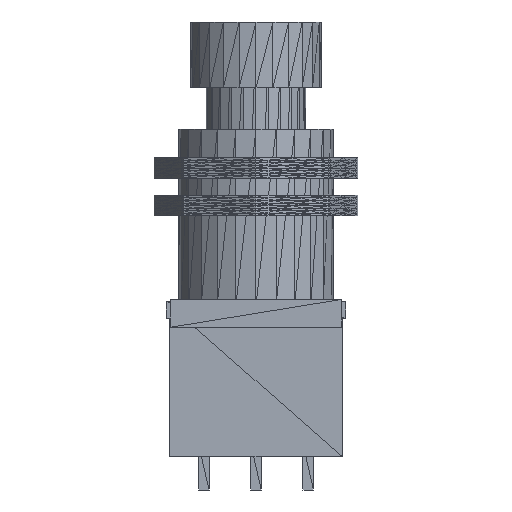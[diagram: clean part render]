
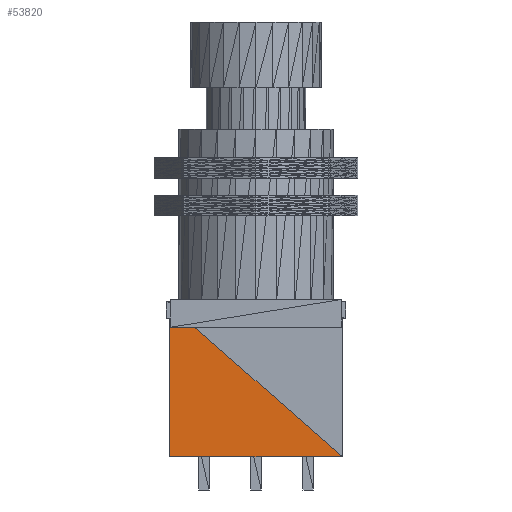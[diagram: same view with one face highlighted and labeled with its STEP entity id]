
A CAD part, front view. The second image highlights one B-rep face of the part: STEP entity #53820.
In plain terms, the highlighted planar face has unit normal (0, -1, 0).
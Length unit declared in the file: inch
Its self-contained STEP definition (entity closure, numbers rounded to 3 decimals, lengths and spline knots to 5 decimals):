
#53686=CARTESIAN_POINT('',(-0.264,-0.236,0.465));
#53687=VERTEX_POINT('',#53686);
#53718=CARTESIAN_POINT('',(-0.264,-0.236,0.));
#53719=VERTEX_POINT('',#53718);
#53726=CARTESIAN_POINT('',(-0.264,-0.236,0.));
#53727=DIRECTION('',(0.,0.,1.));
#53728=VECTOR('',#53727,0.465);
#53729=LINE('',#53726,#53728);
#53730=EDGE_CURVE('',#53719,#53687,#53729,.T.);
#53741=CARTESIAN_POINT('',(0.264,-0.236,0.));
#53742=VERTEX_POINT('',#53741);
#53743=CARTESIAN_POINT('',(0.264,-0.236,0.));
#53744=DIRECTION('',(-0.75,0.,0.661));
#53745=VECTOR('',#53744,0.70357);
#53746=LINE('',#53743,#53745);
#53747=EDGE_CURVE('',#53742,#53687,#53746,.T.);
#53805=CARTESIAN_POINT('',(-0.264,-0.236,0.465));
#53806=DIRECTION('',(0.,1.,0.));
#53807=DIRECTION('',(1.,0.,0.));
#53808=AXIS2_PLACEMENT_3D('',#53805,#53806,#53807);
#53809=PLANE('',#53808);
#53810=ORIENTED_EDGE('',*,*,#53730,.F.);
#53811=CARTESIAN_POINT('',(-0.264,-0.236,0.));
#53812=DIRECTION('',(1.,0.,-0.));
#53813=VECTOR('',#53812,0.528);
#53814=LINE('',#53811,#53813);
#53815=EDGE_CURVE('',#53719,#53742,#53814,.T.);
#53816=ORIENTED_EDGE('',*,*,#53815,.T.);
#53817=ORIENTED_EDGE('',*,*,#53747,.T.);
#53818=EDGE_LOOP('',(#53810,#53816,#53817));
#53819=FACE_BOUND('',#53818,.T.);
#53820=ADVANCED_FACE('',(#53819),#53809,.F.);
